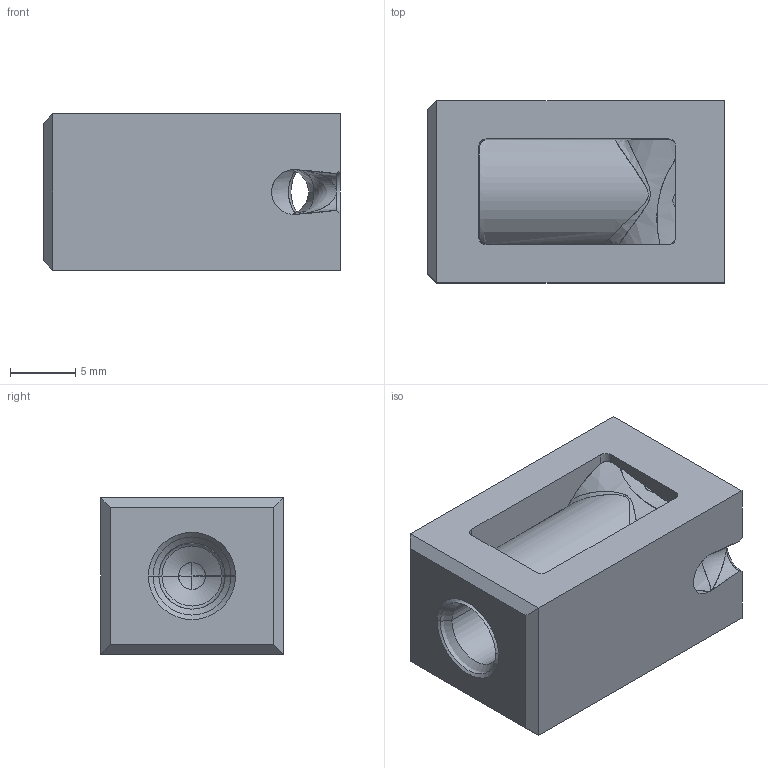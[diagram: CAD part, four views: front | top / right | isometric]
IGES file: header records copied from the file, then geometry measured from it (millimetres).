
Start section: START RECORD GO HERE.
Global section: file name: tgs14-28-s1.igs; native system: DASSAULT SYSTEMES CATIA V5 R20 - www.3ds.com; preprocessor: CATIA Version 5 Release 20 ; author: Utente; organization: NB04-ASUS; date: 20200418.082847; units: millimetre
Bounding box: 22.8 x 14 x 12 mm (x, y, z)
Surface area: 2268.9 mm2 (no closed solid volume)
Topology: 0 solids, 0 shells, 74 faces, 452 edges, 445 vertices
Faces by surface type: revolution 37, plane 22, bspline 15
